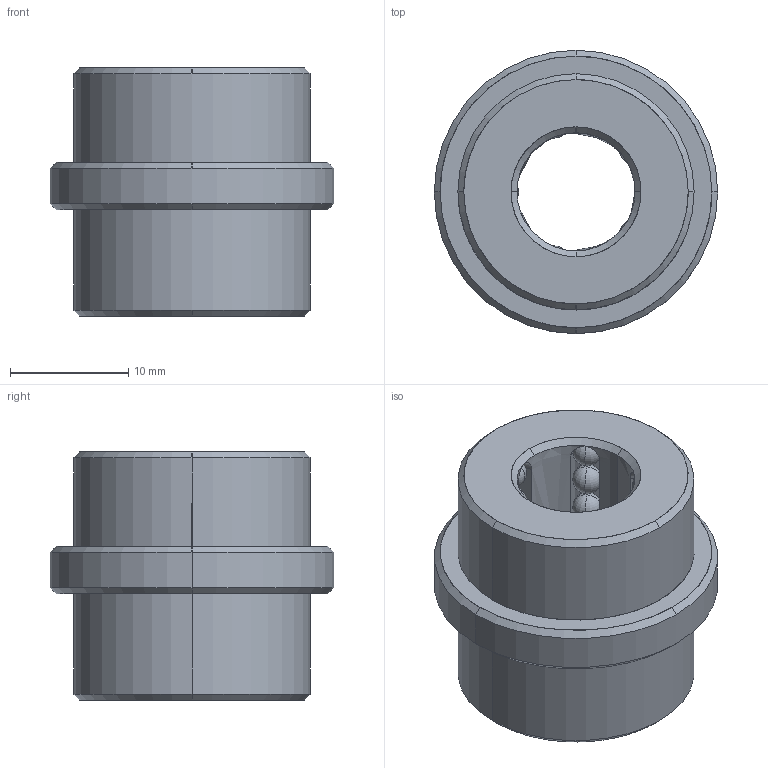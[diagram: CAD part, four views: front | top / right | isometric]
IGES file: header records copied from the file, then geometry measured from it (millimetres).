
Start section: START RECORD GO HERE.
Global section: file name: B8021012.igs; native system: DASSAULT SYSTEMES CATIA V5 R20 - www.3ds.com; preprocessor: CATIA Version 5 Release 20 ; author: Utente; organization: NB04-ASUS; date: 20200419.150457; units: millimetre
Bounding box: 24 x 24 x 21 mm (x, y, z)
Surface area: 3893.8 mm2 (no closed solid volume)
Topology: 0 solids, 0 shells, 201 faces, 854 edges, 574 vertices
Faces by surface type: revolution 182, plane 19
